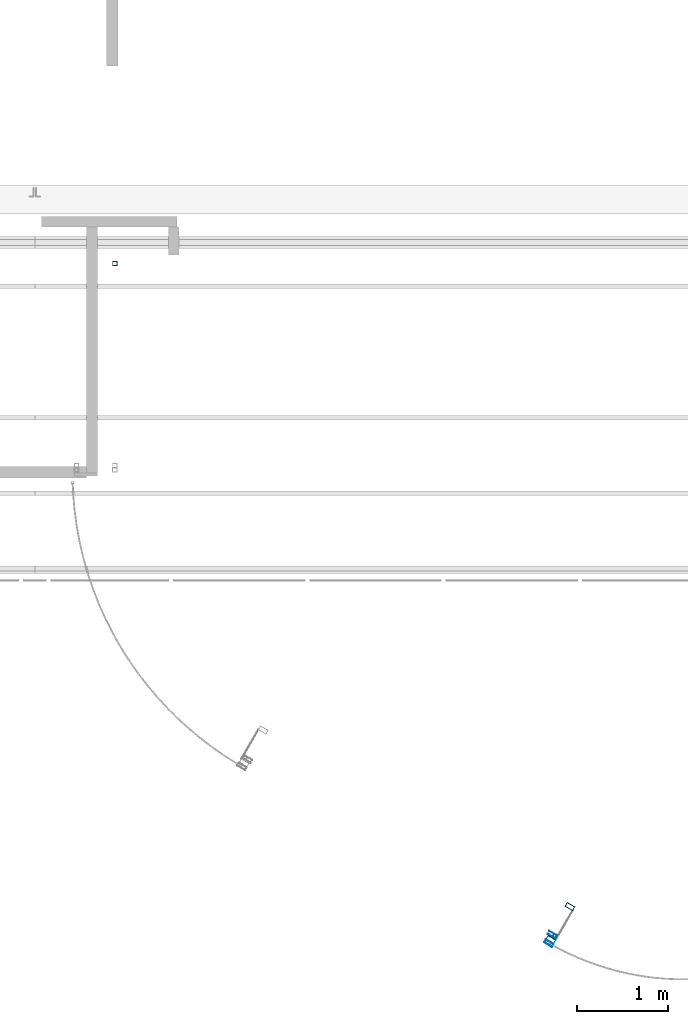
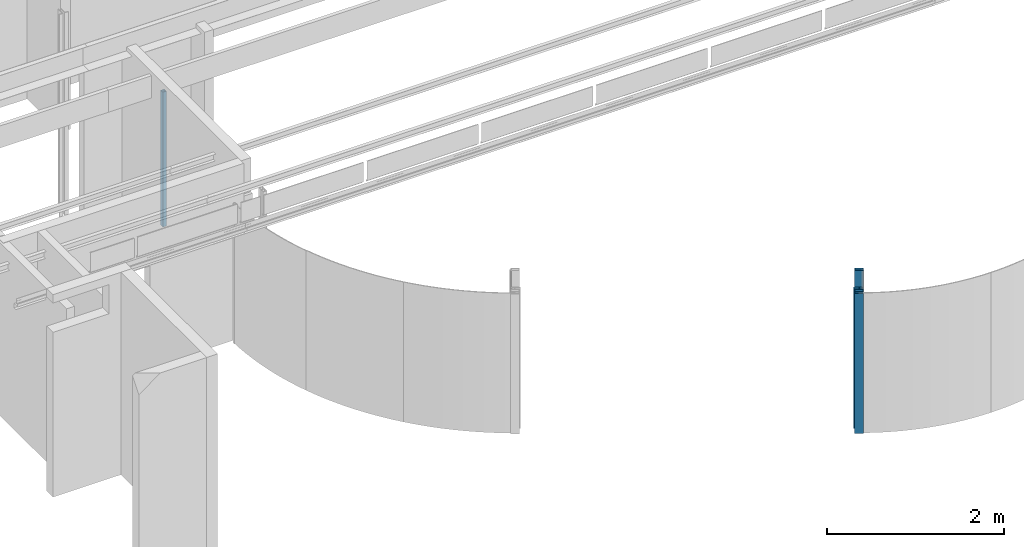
# One storey, part 2 of 11: 5 columns, 2 openings.
"""IFC2X3 building model written with IfcOpenShell, lengths in millimetres."""

from ifc_helpers import new_model, entity, si_unit, converted_unit, derived_unit, direction, frame, frame_2d, origin, origin_with_axes, origin_2d_with_axis, place, context, subcontext, project, spatial, polyline, rectangle, outline, extrude, faceted_brep, source, transform, mapped, material, type_object, element, save


model = new_model("IFC2X3")

# Units and contexts
model_context = context("Model", 3, precision=0.01, world=frame((0.0, 4.29681676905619e-09, 0.0)), true_north=direction((4.01073788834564e-13, 1.0)))
plan_context = context("Plan", 3, precision=0.01, world=frame((0.0, 4.29681676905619e-09, 0.0)), true_north=direction((4.01073788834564e-13, 1.0)))
body_context = subcontext(model_context, "Body", "Model", "MODEL_VIEW")
ifc_project = project(units=[converted_unit("PLANEANGLEUNIT", "DEGREE", entity("IfcPositiveLengthMeasure", 0.0174532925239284), si_unit("PLANEANGLEUNIT", "RADIAN"), dimensions=[0, 0, 0, 0, 0, 0, 0]), si_unit("AREAUNIT", "SQUARE_METRE"), si_unit("LENGTHUNIT", "METRE", prefix="MILLI"), si_unit("MASSUNIT", "GRAM", prefix="KILO"), si_unit("POWERUNIT", "WATT"), si_unit("PRESSUREUNIT", "PASCAL"), si_unit("FORCEUNIT", "NEWTON", prefix="KILO"), si_unit("ELECTRICVOLTAGEUNIT", "VOLT"), si_unit("ELECTRICCURRENTUNIT", "AMPERE"), si_unit("THERMODYNAMICTEMPERATUREUNIT", "DEGREE_CELSIUS"), si_unit("TIMEUNIT", "SECOND"), si_unit("VOLUMEUNIT", "CUBIC_METRE"), derived_unit("LINEARVELOCITYUNIT", [(si_unit("LENGTHUNIT", "METRE"), 1), (si_unit("TIMEUNIT", "SECOND"), -1)]), derived_unit("VOLUMETRICFLOWRATEUNIT", [(si_unit("VOLUMEUNIT", "CUBIC_METRE"), 1), (si_unit("TIMEUNIT", "SECOND"), -1)]), derived_unit("THERMALTRANSMITTANCEUNIT", [(si_unit("POWERUNIT", "WATT"), 1), (si_unit("THERMODYNAMICTEMPERATUREUNIT", "KELVIN"), -1), (si_unit("AREAUNIT", "SQUARE_METRE"), -1)]), derived_unit("SOUNDPRESSUREUNIT", [(si_unit("PRESSUREUNIT", "PASCAL"), 1)])], contexts=[model_context, plan_context])

# Site, building, storey
site_placement = place(None, origin_with_axes())
site = spatial("IfcSite", under=ifc_project, at=site_placement, Name="ENGM", CompositionType="ELEMENT")
building_placement = place(site_placement, origin_with_axes())
building = spatial("IfcBuilding", under=site, at=building_placement, Name="TH", CompositionType="ELEMENT")
storey_placement = place(building_placement, frame((0.0, 0.0, 210900.0), z_axis=(0.0, 0.0, 1.0), x_axis=(1.0, 0.0, 0.0)))
storey = spatial("IfcBuildingStorey", under=building, at=storey_placement, Name="Nivå F", CompositionType="ELEMENT", Elevation=210900.0)

# Columns
ifc_material = material(Name="_NSW Stål")
column_type_1 = type_object("IfcColumnType", Name="A243 - Rullegardinskinner:A243 - Portskinne Book Shop", PredefinedType="COLUMN", material=ifc_material)
shared_shape_1 = source(origin(), body_context, "Body", "Brep", [
    faceted_brep([(-14.0, -100.0, 212830.0), (-20.0, -100.0, 212830.0), (-20.0, -100.0, 210900.0), (-14.0, -100.0, 210900.0), (-14.0, -90.0, 212830.0), (-14.0, -90.0, 210900.0), (-17.0, -90.0, 212830.0), (-17.0, -90.0, 210900.0), (-17.0, -38.0, 212830.0), (-17.0, -38.0, 210900.0), (17.0, -38.0, 212830.0), (17.0, -38.0, 210900.0), (17.0, -90.0, 212830.0), (17.0, -90.0, 210900.0), (14.0, -90.0, 212830.0), (14.0, -90.0, 210900.0), (14.0, -100.0, 212830.0), (14.0, -100.0, 210900.0), (20.0, -100.0, 212830.0), (20.0, -100.0, 210900.0), (20.0, 0.0, 212830.0), (20.0, 0.0, 210900.0), (-20.0, 0.0, 212830.0), (-20.0, 0.0, 210900.0), (-17.0, -3.0, 212830.0), (-17.0, -35.0, 212830.0), (-17.0, -35.0, 210900.0), (-17.0, -3.0, 210900.0), (17.0, -3.0, 212830.0), (17.0, -3.0, 210900.0), (17.0, -35.0, 212830.0), (17.0, -35.0, 210900.0)], [[[0, 1, 2, 3]], [[4, 0, 3, 5]], [[6, 4, 5, 7]], [[8, 6, 7, 9]], [[10, 8, 9, 11]], [[12, 10, 11, 13]], [[14, 12, 13, 15]], [[16, 14, 15, 17]], [[18, 16, 17, 19]], [[20, 18, 19, 21]], [[22, 20, 21, 23]], [[1, 22, 23, 2]], [[24, 25, 26, 27]], [[28, 24, 27, 29]], [[30, 28, 29, 31]], [[25, 30, 31, 26]], [[1, 0, 4, 6, 8, 10, 12, 14, 16, 18, 20, 22], [25, 24, 28, 30]], [[3, 2, 23, 21, 19, 17, 15, 13, 11, 9, 7, 5], [27, 26, 31, 29]]]),
])
column_1_placement = place(storey_placement, frame((903742.383960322, 476878.257094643, -210900.0), z_axis=(0.0, 0.0, 1.0), x_axis=(-0.500000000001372, -0.866025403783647, 0.0)))
element("IfcColumn", 1, at=column_1_placement, inside=storey, type_object=column_type_1, material=ifc_material, Name="A243 - Rullegardinskinner:A243 - Portskinne Book Shop", ObjectType="A243 - Rullegardinskinner:A243 - Portskinne Book Shop", context=body_context, shape_type="MappedRepresentation", body=[
    mapped(shared_shape_1, transform((0.0, 0.0, 0.0), scale=1.0)),
])
column_type_2 = type_object("IfcColumnType", Name="A241 - Glassramme Book Shop:A241 - 100x40mm", PredefinedType="COLUMN", material=ifc_material)
shared_shape_2 = source(origin(), body_context, "Body", "Brep", [
    faceted_brep([(-20.0, 50.0, 212835.0), (-15.0, 50.0, 212835.0), (-15.0, 50.0, 210900.0), (-20.0, 50.0, 210900.0), (-15.0, -45.0, 212835.0), (-15.0, -45.0, 210900.0), (15.0, -45.0, 212835.0), (15.0, -45.0, 210900.0), (15.0, 50.0, 212835.0), (15.0, 50.0, 210900.0), (20.0, 50.0, 212835.0), (20.0, 50.0, 210900.0), (20.0, -50.0, 212835.0), (20.0, -50.0, 210900.0), (-20.0, -50.0, 212835.0), (-20.0, -50.0, 210900.0)], [[[0, 1, 2, 3]], [[1, 4, 5, 2]], [[4, 6, 7, 5]], [[6, 8, 9, 7]], [[8, 10, 11, 9]], [[10, 12, 13, 11]], [[12, 14, 15, 13]], [[14, 0, 3, 15]], [[1, 0, 14, 12, 10, 8, 6, 4]], [[3, 2, 5, 7, 9, 11, 13, 15]]]),
])
column_2_placement = place(storey_placement, frame((903658.779295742, 476811.104521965, -210900.0), z_axis=(0.0, 0.0, 1.0), x_axis=(-0.500000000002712, -0.866025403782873, 0.0)))
element("IfcColumn", 2, at=column_2_placement, inside=storey, type_object=column_type_2, material=ifc_material, Name="A241 - Glassramme Book Shop:A241 - 100x40mm", ObjectType="A241 - Glassramme Book Shop:A241 - 100x40mm", context=body_context, shape_type="MappedRepresentation", body=[
    mapped(shared_shape_2, transform((0.0, 0.0, 0.0), scale=1.0)),
])
column_type_3 = type_object("IfcColumnType", Name="B222 - HUP7:B222 - HUP 50x50x5", PredefinedType="COLUMN", material=ifc_material)
shared_shape_3 = source(origin(), body_context, "Body", "SweptSolid", [
    extrude(outline(polyline([(-25.0, -25.0), (25.0, -25.0), (25.0, 25.0), (-25.0, 25.0), (-25.0, -25.0)]), holes=[polyline([(-20.0, -20.0), (-20.0, 20.0), (20.0, 20.0), (20.0, -20.0), (-20.0, -20.0)])]), frame((0.0, 0.0, 210900.0), z_axis=(0.0, 0.0, 1.0), x_axis=(-1.0, 0.0, 0.0)), (0.0, 0.0, 1.0), 1864.99999999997),
])
column_3_placement = place(storey_placement, frame((898880.133962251, 484292.694644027, -210900.0), z_axis=(0.0, 0.0, 1.0), x_axis=(0.0, 1.0, 0.0)))
element("IfcColumn", 3, at=column_3_placement, inside=storey, type_object=column_type_3, material=ifc_material, Name="B222 - HUP7:B222 - HUP 50x50x5", ObjectType="B222 - HUP7:B222 - HUP 50x50x5", context=body_context, shape_type="MappedRepresentation", body=[
    mapped(shared_shape_3, transform((0.0, 0.0, 0.0), scale=1.0)),
])

# Column, opening
column_type_4 = type_object("IfcColumnType", Name="B222 - HUP7:B222 - HUP 100x50x5", PredefinedType="COLUMN", material=ifc_material)
shared_shape_4 = source(origin(), body_context, "Body", "SweptSolid", [
    extrude(rectangle(XDim=1934.99999999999, YDim=100.0, at=frame_2d((1.73372427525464e-11, 0.0), x_axis=(1.0, 0.0))), frame((-25.0, 0.0, 211867.5), z_axis=(1.0, 0.0, 0.0), x_axis=(0.0, 0.0, -1.0)), (0.0, 0.0, 1.0), 50.0),
])
column_4_placement = place(storey_placement, frame((903891.278111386, 477213.80428336, -210900.0), z_axis=(0.0, 0.0, 1.0), x_axis=(0.500000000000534, 0.86602540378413, 0.0)))
column_4 = element("IfcColumn", 4, at=column_4_placement, inside=storey, type_object=column_type_4, material=ifc_material, Name="B222 - HUP7:B222 - HUP 100x50x5", ObjectType="B222 - HUP7:B222 - HUP 100x50x5", context=body_context, shape_type="MappedRepresentation", body=[
    mapped(shared_shape_4, transform((0.0, 0.0, 0.0), scale=1.0)),
])
opening_1_placement = place(column_4_placement, frame((0.0, 0.0, 210900.0), z_axis=(0.0, 0.0, 1.0), x_axis=(0.500000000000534, 0.86602540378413, 0.0)))
element("IfcOpeningElement", 5, at=opening_1_placement, cuts=column_4, Name="B222 - HUP7:B222 - HUP 100x50x5:1", ObjectType="Opening", context=body_context, shape_type="SweptSolid", body=[
    extrude(rectangle(XDim=90.0, YDim=39.9999999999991, at=origin_2d_with_axis()), frame((0.0, 0.0, 0.0), z_axis=(0.0, 0.0, 1.0), x_axis=(0.86602540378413, 0.500000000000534, 0.0)), (0.0, 0.0, 1.0), 1934.99999999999),
])

column_type_5 = type_object("IfcColumnType", Name="B222 - HUP7:B222 - HUP 100x50x5", PredefinedType="COLUMN", material=ifc_material)
shared_shape_5 = source(origin(), body_context, "Body", "SweptSolid", [
    extrude(rectangle(XDim=1934.99999999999, YDim=100.0, at=frame_2d((1.73372427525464e-11, 0.0), x_axis=(1.0, 0.0))), frame((-25.0, 0.0, 211867.5), z_axis=(1.0, 0.0, 0.0), x_axis=(0.0, 0.0, -1.0)), (0.0, 0.0, 1.0), 50.0),
])
column_5_placement = place(storey_placement, frame((903681.279295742, 476850.075665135, -210900.0), z_axis=(0.0, 0.0, 1.0), x_axis=(0.500000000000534, 0.86602540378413, 0.0)))
column_5 = element("IfcColumn", 6, at=column_5_placement, inside=storey, type_object=column_type_5, material=ifc_material, Name="B222 - HUP7:B222 - HUP 100x50x5", ObjectType="B222 - HUP7:B222 - HUP 100x50x5", context=body_context, shape_type="MappedRepresentation", body=[
    mapped(shared_shape_5, transform((0.0, 0.0, 0.0), scale=1.0)),
])
opening_2_placement = place(column_5_placement, frame((0.0, 0.0, 210900.0), z_axis=(0.0, 0.0, 1.0), x_axis=(0.500000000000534, 0.86602540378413, 0.0)))
element("IfcOpeningElement", 7, at=opening_2_placement, cuts=column_5, Name="B222 - HUP7:B222 - HUP 100x50x5:1", ObjectType="Opening", context=body_context, shape_type="SweptSolid", body=[
    extrude(rectangle(XDim=90.0, YDim=39.9999999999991, at=origin_2d_with_axis()), frame((0.0, 0.0, 1935.0), z_axis=(0.0, 0.0, -1.0), x_axis=(-0.86602540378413, -0.500000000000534, 0.0)), (0.0, 0.0, 1.0), 1934.99999999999),
])

save(model, "model.ifc")
